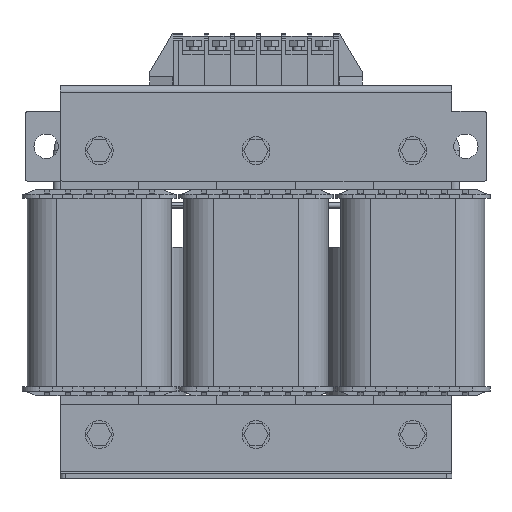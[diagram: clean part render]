
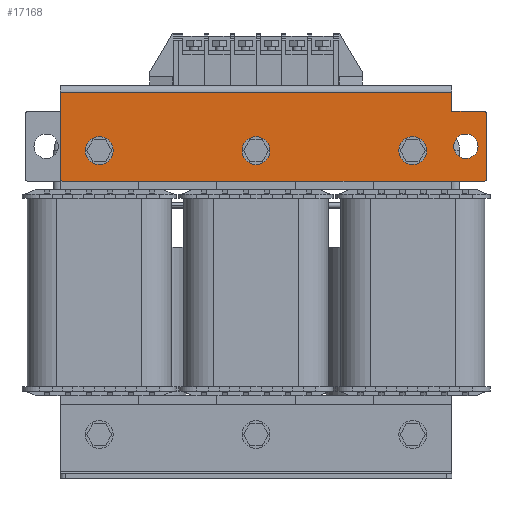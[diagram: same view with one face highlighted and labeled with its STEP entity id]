
A CAD part, front view. The second image highlights one B-rep face of the part: STEP entity #17168.
In plain terms, the highlighted planar face has unit normal (0, -1, 0).
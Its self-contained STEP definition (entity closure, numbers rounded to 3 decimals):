
#648 = ORIENTED_EDGE ( 'NONE', *, *, #14195, .F. ) ;
#1177 = CARTESIAN_POINT ( 'NONE',  ( 112.5, -96.6, 209.5 ) ) ;
#1729 = AXIS2_PLACEMENT_3D ( 'NONE', #92788, #42910, #27953 ) ;
#3065 = LINE ( 'NONE', #16080, #82167 ) ;
#3946 = CARTESIAN_POINT ( 'NONE',  ( 120.5, -96.6, 191. ) ) ;
#6626 = CARTESIAN_POINT ( 'NONE',  ( 112.5, -96.6, 211. ) ) ;
#7563 = CARTESIAN_POINT ( 'NONE',  ( 131., -96.6, 209.5 ) ) ;
#7921 = ORIENTED_EDGE ( 'NONE', *, *, #87239, .T. ) ;
#9433 = CARTESIAN_POINT ( 'NONE',  ( 131., -96.6, 171. ) ) ;
#9445 = CIRCLE ( 'NONE', #1729, 1.5 ) ;
#10238 = CARTESIAN_POINT ( 'NONE',  ( 112.5, -96.6, 209.5 ) ) ;
#10973 = EDGE_CURVE ( 'NONE', #12912, #45330, #9445, .T. ) ;
#12912 = VERTEX_POINT ( 'NONE', #57461 ) ;
#13668 = CARTESIAN_POINT ( 'NONE',  ( -112.5, -96.6, 222. ) ) ;
#14155 = CIRCLE ( 'NONE', #21829, 1.5 ) ;
#14195 = EDGE_CURVE ( 'NONE', #50817, #27114, #64722, .T. ) ;
#14834 = LINE ( 'NONE', #94543, #15270 ) ;
#15270 = VECTOR ( 'NONE', #28767, 1000. ) ;
#16080 = CARTESIAN_POINT ( 'NONE',  ( -111., -96.6, 171. ) ) ;
#16568 = DIRECTION ( 'NONE',  ( -1., 0., 0. ) ) ;
#17168 = ADVANCED_FACE ( 'NONE', ( #76536, #18837 ), #68843, .T. ) ;
#18302 = ORIENTED_EDGE ( 'NONE', *, *, #62393, .F. ) ;
#18837 = FACE_OUTER_BOUND ( 'NONE', #90449, .T. ) ;
#20519 = VERTEX_POINT ( 'NONE', #27651 ) ;
#20750 = EDGE_CURVE ( 'NONE', #27114, #12912, #3065, .T. ) ;
#21780 = DIRECTION ( 'NONE',  ( 0., 1., 0. ) ) ;
#21829 = AXIS2_PLACEMENT_3D ( 'NONE', #7563, #29158, #66615 ) ;
#21880 = LINE ( 'NONE', #52159, #92633 ) ;
#22270 = CARTESIAN_POINT ( 'NONE',  ( 120.5, -96.6, 198. ) ) ;
#22732 = CARTESIAN_POINT ( 'NONE',  ( 120.5, -96.6, 191. ) ) ;
#24283 = ORIENTED_EDGE ( 'NONE', *, *, #87902, .F. ) ;
#25236 = CARTESIAN_POINT ( 'NONE',  ( 132.5, -96.6, 209.5 ) ) ;
#27000 = DIRECTION ( 'NONE',  ( 0., 0., 1. ) ) ;
#27114 = VERTEX_POINT ( 'NONE', #9433 ) ;
#27215 = VERTEX_POINT ( 'NONE', #25236 ) ;
#27651 = CARTESIAN_POINT ( 'NONE',  ( 131., -96.6, 211. ) ) ;
#27950 = ORIENTED_EDGE ( 'NONE', *, *, #33368, .F. ) ;
#27953 = DIRECTION ( 'NONE',  ( 0., 0., 1. ) ) ;
#28421 = ORIENTED_EDGE ( 'NONE', *, *, #83138, .T. ) ;
#28767 = DIRECTION ( 'NONE',  ( 0., 0., -1. ) ) ;
#29158 = DIRECTION ( 'NONE',  ( 0., 1., 0. ) ) ;
#30454 = LINE ( 'NONE', #82807, #84398 ) ;
#30918 = DIRECTION ( 'NONE',  ( 1., 0., 0. ) ) ;
#32314 = DIRECTION ( 'NONE',  ( 0., 0., -1. ) ) ;
#33368 = EDGE_CURVE ( 'NONE', #27215, #50817, #14834, .T. ) ;
#34613 = EDGE_CURVE ( 'NONE', #82071, #20519, #30454, .T. ) ;
#36979 = LINE ( 'NONE', #86449, #50622 ) ;
#37953 = ORIENTED_EDGE ( 'NONE', *, *, #34613, .F. ) ;
#38107 = VERTEX_POINT ( 'NONE', #22270 ) ;
#38421 = ORIENTED_EDGE ( 'NONE', *, *, #20750, .F. ) ;
#39809 = AXIS2_PLACEMENT_3D ( 'NONE', #3946, #84680, #27000 ) ;
#40363 = DIRECTION ( 'NONE',  ( 0., 1., 0. ) ) ;
#41984 = EDGE_CURVE ( 'NONE', #94039, #86748, #21880, .T. ) ;
#42910 = DIRECTION ( 'NONE',  ( 0., 1., 0. ) ) ;
#45063 = ORIENTED_EDGE ( 'NONE', *, *, #10973, .F. ) ;
#45330 = VERTEX_POINT ( 'NONE', #70790 ) ;
#46822 = VERTEX_POINT ( 'NONE', #66522 ) ;
#48041 = CARTESIAN_POINT ( 'NONE',  ( 131., -96.6, 172.5 ) ) ;
#48486 = CIRCLE ( 'NONE', #80706, 7. ) ;
#50622 = VECTOR ( 'NONE', #59025, 1000. ) ;
#50652 = ORIENTED_EDGE ( 'NONE', *, *, #75045, .F. ) ;
#50817 = VERTEX_POINT ( 'NONE', #61946 ) ;
#51093 = DIRECTION ( 'NONE',  ( 0., 0., 1. ) ) ;
#52159 = CARTESIAN_POINT ( 'NONE',  ( 112.5, -96.6, 222. ) ) ;
#57461 = CARTESIAN_POINT ( 'NONE',  ( -111., -96.6, 171. ) ) ;
#58128 = CIRCLE ( 'NONE', #39809, 7. ) ;
#59025 = DIRECTION ( 'NONE',  ( 0., 0., 1. ) ) ;
#61946 = CARTESIAN_POINT ( 'NONE',  ( 132.5, -96.6, 172.5 ) ) ;
#62393 = EDGE_CURVE ( 'NONE', #20519, #27215, #14155, .T. ) ;
#64722 = CIRCLE ( 'NONE', #83149, 1.5 ) ;
#66522 = CARTESIAN_POINT ( 'NONE',  ( 120.5, -96.6, 184. ) ) ;
#66615 = DIRECTION ( 'NONE',  ( 0., 0., 1. ) ) ;
#68843 = PLANE ( 'NONE',  #80466 ) ;
#69772 = DIRECTION ( 'NONE',  ( 0., -1., 0. ) ) ;
#70790 = CARTESIAN_POINT ( 'NONE',  ( -112.5, -96.6, 172.5 ) ) ;
#74231 = LINE ( 'NONE', #1177, #92159 ) ;
#75045 = EDGE_CURVE ( 'NONE', #94039, #82071, #74231, .T. ) ;
#76536 = FACE_BOUND ( 'NONE', #85262, .T. ) ;
#77310 = DIRECTION ( 'NONE',  ( 0., 0., 1. ) ) ;
#80403 = ORIENTED_EDGE ( 'NONE', *, *, #41984, .T. ) ;
#80466 = AXIS2_PLACEMENT_3D ( 'NONE', #10238, #69772, #32314 ) ;
#80706 = AXIS2_PLACEMENT_3D ( 'NONE', #22732, #21780, #51093 ) ;
#81454 = DIRECTION ( 'NONE',  ( -1., 0., 0. ) ) ;
#82071 = VERTEX_POINT ( 'NONE', #6626 ) ;
#82167 = VECTOR ( 'NONE', #16568, 1000. ) ;
#82807 = CARTESIAN_POINT ( 'NONE',  ( 131., -96.6, 211. ) ) ;
#83138 = EDGE_CURVE ( 'NONE', #46822, #38107, #48486, .T. ) ;
#83149 = AXIS2_PLACEMENT_3D ( 'NONE', #48041, #40363, #77310 ) ;
#84311 = CARTESIAN_POINT ( 'NONE',  ( 112.5, -96.6, 222. ) ) ;
#84398 = VECTOR ( 'NONE', #30918, 1000. ) ;
#84680 = DIRECTION ( 'NONE',  ( 0., 1., 0. ) ) ;
#85262 = EDGE_LOOP ( 'NONE', ( #7921, #28421 ) ) ;
#86449 = CARTESIAN_POINT ( 'NONE',  ( -112.5, -96.6, 209.5 ) ) ;
#86748 = VERTEX_POINT ( 'NONE', #13668 ) ;
#87239 = EDGE_CURVE ( 'NONE', #38107, #46822, #58128, .T. ) ;
#87902 = EDGE_CURVE ( 'NONE', #45330, #86748, #36979, .T. ) ;
#89559 = DIRECTION ( 'NONE',  ( 0., 0., -1. ) ) ;
#90449 = EDGE_LOOP ( 'NONE', ( #648, #27950, #18302, #37953, #50652, #80403, #24283, #45063, #38421 ) ) ;
#92159 = VECTOR ( 'NONE', #89559, 1000. ) ;
#92633 = VECTOR ( 'NONE', #81454, 1000. ) ;
#92788 = CARTESIAN_POINT ( 'NONE',  ( -111., -96.6, 172.5 ) ) ;
#94039 = VERTEX_POINT ( 'NONE', #84311 ) ;
#94543 = CARTESIAN_POINT ( 'NONE',  ( 132.5, -96.6, 172.5 ) ) ;
